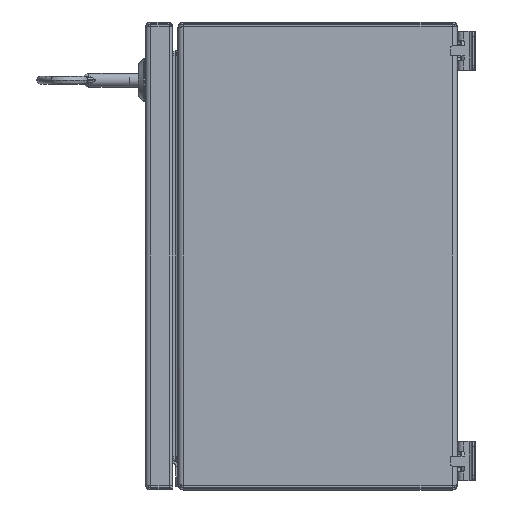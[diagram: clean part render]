
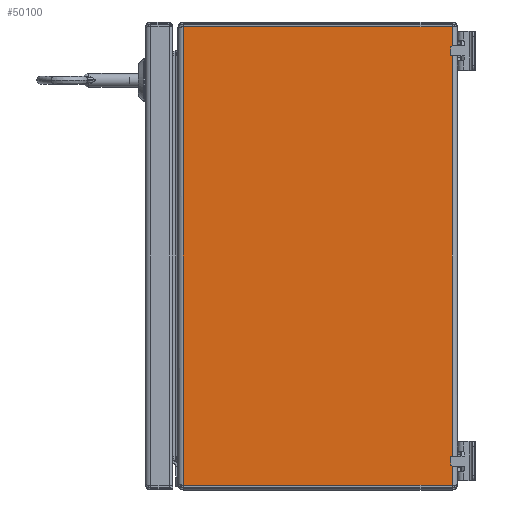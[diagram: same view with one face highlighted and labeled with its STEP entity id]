
A CAD part, left-side view. The second image highlights one B-rep face of the part: STEP entity #50100.
In plain terms, the highlighted planar face has unit normal (-1, 0, 0).
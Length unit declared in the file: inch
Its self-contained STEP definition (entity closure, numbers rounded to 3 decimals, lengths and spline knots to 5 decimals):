
#528 = VECTOR ( 'NONE', #13576, 39.37008 ) ;
#3643 = LINE ( 'NONE', #11583, #45727 ) ;
#4285 = EDGE_CURVE ( 'NONE', #25178, #4664, #3643, .T. ) ;
#4664 = VERTEX_POINT ( 'NONE', #36866 ) ;
#5009 = DIRECTION ( 'NONE',  ( 0., 0., 1. ) ) ;
#7534 = LINE ( 'NONE', #21774, #13081 ) ;
#8644 = DIRECTION ( 'NONE',  ( 0., 0., 1. ) ) ;
#9003 = CARTESIAN_POINT ( 'NONE',  ( -7.87402, 6.91796, -84.64567 ) ) ;
#11242 = ORIENTED_EDGE ( 'NONE', *, *, #4285, .F. ) ;
#11583 = CARTESIAN_POINT ( 'NONE',  ( -7.87402, 6.91796, -84.64567 ) ) ;
#13081 = VECTOR ( 'NONE', #49407, 39.37008 ) ;
#13576 = DIRECTION ( 'NONE',  ( 0., 1., 0. ) ) ;
#14275 = ORIENTED_EDGE ( 'NONE', *, *, #15643, .T. ) ;
#15643 = EDGE_CURVE ( 'NONE', #44574, #24319, #39583, .T. ) ;
#17710 = FACE_OUTER_BOUND ( 'NONE', #31805, .T. ) ;
#18514 = VECTOR ( 'NONE', #8644, 39.37008 ) ;
#21121 = ORIENTED_EDGE ( 'NONE', *, *, #35599, .T. ) ;
#21774 = CARTESIAN_POINT ( 'NONE',  ( -7.87402, 6.91796, -5.78914 ) ) ;
#22401 = CARTESIAN_POINT ( 'NONE',  ( -7.87402, 0.1348, 5.78914 ) ) ;
#22830 = DIRECTION ( 'NONE',  ( 0., 0., 1. ) ) ;
#23714 = EDGE_CURVE ( 'NONE', #25178, #44574, #7534, .T. ) ;
#23855 = CARTESIAN_POINT ( 'NONE',  ( -7.87402, 0.1348, -84.64567 ) ) ;
#24053 = LINE ( 'NONE', #24991, #528 ) ;
#24208 = PLANE ( 'NONE',  #40286 ) ;
#24319 = VERTEX_POINT ( 'NONE', #22401 ) ;
#24991 = CARTESIAN_POINT ( 'NONE',  ( -7.87402, 6.91796, 5.78914 ) ) ;
#25178 = VERTEX_POINT ( 'NONE', #29722 ) ;
#28728 = DIRECTION ( 'NONE',  ( -1., 0., 0. ) ) ;
#29722 = CARTESIAN_POINT ( 'NONE',  ( -7.87402, 6.91796, -5.78914 ) ) ;
#31457 = CARTESIAN_POINT ( 'NONE',  ( -7.87402, 0.1348, -5.78914 ) ) ;
#31805 = EDGE_LOOP ( 'NONE', ( #21121, #11242, #47233, #14275 ) ) ;
#35599 = EDGE_CURVE ( 'NONE', #24319, #4664, #24053, .T. ) ;
#36866 = CARTESIAN_POINT ( 'NONE',  ( -7.87402, 6.91796, 5.78914 ) ) ;
#39583 = LINE ( 'NONE', #23855, #18514 ) ;
#40286 = AXIS2_PLACEMENT_3D ( 'NONE', #9003, #28728, #5009 ) ;
#44574 = VERTEX_POINT ( 'NONE', #31457 ) ;
#45727 = VECTOR ( 'NONE', #22830, 39.37008 ) ;
#47233 = ORIENTED_EDGE ( 'NONE', *, *, #23714, .T. ) ;
#49407 = DIRECTION ( 'NONE',  ( 0., -1., 0. ) ) ;
#50100 = ADVANCED_FACE ( 'NONE', ( #17710 ), #24208, .T. ) ;
